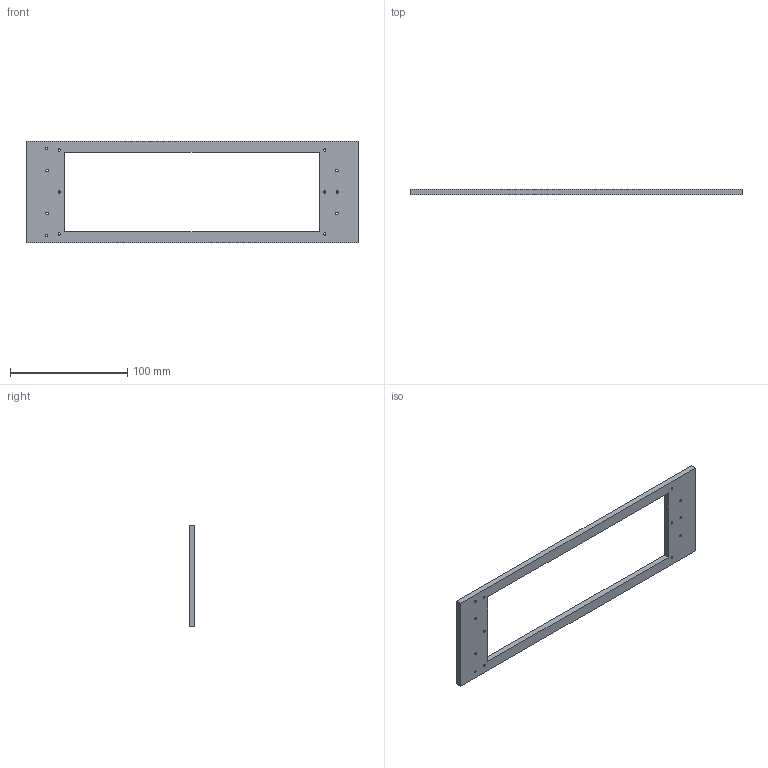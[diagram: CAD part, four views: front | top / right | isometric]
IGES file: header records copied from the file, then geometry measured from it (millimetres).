
Start section: SolidWorks IGES file using analytic representation for surfaces
Global section: file name: C:\Documents and Settings\Administrator\Desktop\coreXY\CoreXY EVT1\20110623\corexy1_yframe.IGS; native system: SolidWorks 2009; preprocessor: SolidWorks 2009; author: Administrator; date: 120423.190719; units: millimetre
Bounding box: 283.4 x 4.9 x 86.55 mm (x, y, z)
Surface area: 26431.1 mm2 (no closed solid volume)
Topology: 0 solids, 0 shells, 36 faces, 568 edges, 568 vertices
Faces by surface type: revolution 26, bspline 10
